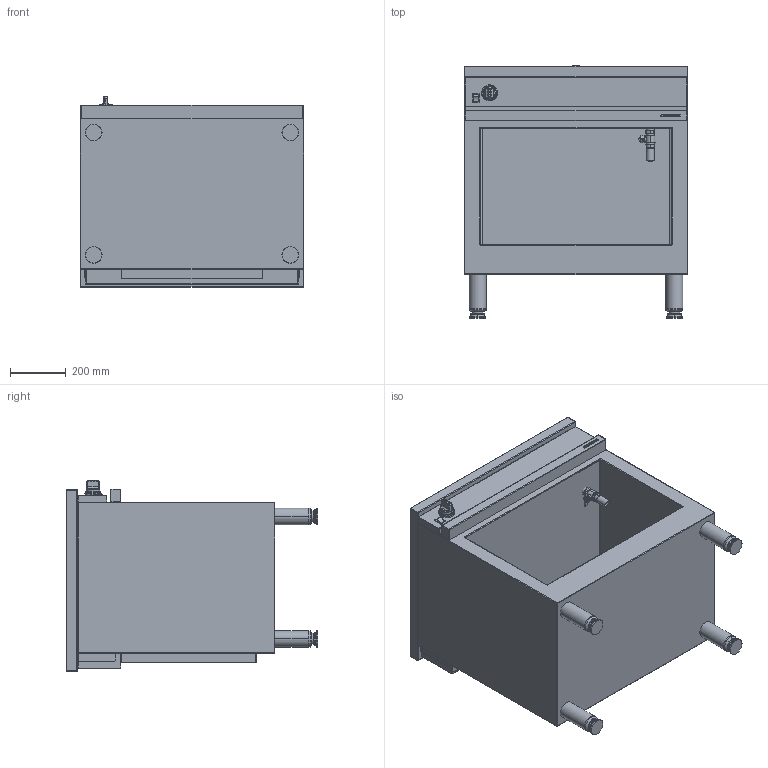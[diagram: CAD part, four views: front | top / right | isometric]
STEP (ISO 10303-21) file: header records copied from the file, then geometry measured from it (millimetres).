
FILE_DESCRIPTION((''),'2;1');
FILE_NAME('CME810M_EXPORT_STEP_ASM','2017-11-22T',('r.avril'),(''),'PRO/ENGINEER BY PARAMETRIC TECHNOLOGY CORPORATION, 2014200','PRO/ENGINEER BY PARAMETRIC TECHNOLOGY CORPORATION, 2014200','');
FILE_SCHEMA(('AP203_CONFIGURATION_CONTROLLED_3D_DESIGN_OF_MECHANICAL_PARTS_AND_ASSEMBLIES_MIM_LF { 1 0 10303 403 2 1 2 }'));
Length unit declared in the file: millimetre
Products named in the file (9): MODULES_AMB_800_EXPORT_STEP; TABLE_CME_810_M; 65101004; 65101004_MANETTE_VANNE; 65101004_ASM; TABLE_CME_810_M_ASM; MANETTE_AMB_EXPORT_STEP; BASCULEUR_AMB_EXPORT_DXF; CME810M_EXPORT_STEP_ASM
Assembly tree (8 placements, depth 4):
  CME810M_EXPORT_STEP_ASM
    MODULES_AMB_800_EXPORT_STEP
    TABLE_CME_810_M_ASM
      TABLE_CME_810_M
      65101004_ASM
        65101004
        65101004_MANETTE_VANNE
    MANETTE_AMB_EXPORT_STEP
    BASCULEUR_AMB_EXPORT_DXF
Bounding box: 800 x 901 x 682.5 mm (x, y, z)
Volume: 102729536.8 mm3; surface area: 6954118.2 mm2
Topology: 13 solids, 31 shells, 541 faces, 1860 edges, 1631 vertices
Faces by surface type: plane 207, cylinder 202, torus 46, sphere 42, cone 32, bspline 12
Entity records: 26783 total; most frequent: CARTESIAN_POINT 6485, DIRECTION 3267, ORIENTED_EDGE 2782, EDGE_CURVE 1616, AXIS2_PLACEMENT_3D 1176, VERTEX_POINT 1147, VECTOR 888, LINE 888
